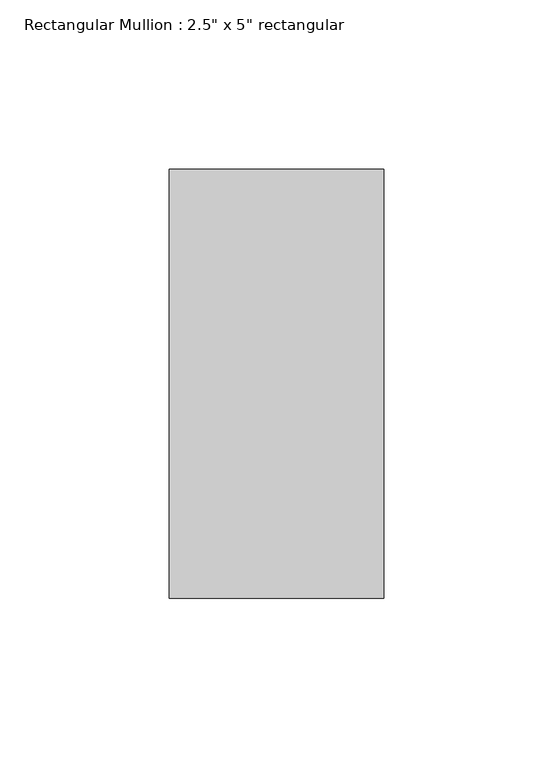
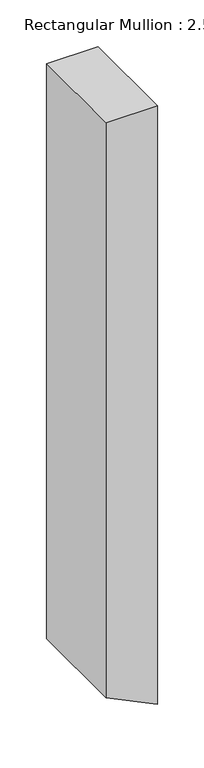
"""IFC4 building model written with IfcOpenShell, lengths in millimetres: member geometry."""

from ifc_helpers import new_model, si_unit, frame, origin, place, context, project, spatial, circle_curve, source, transform, mapped, element, save
from ifc_brep_helpers import plane_surface, cylinder_surface, advanced_brep


def member_0202919b(model_context):
    return source(origin(), model_context, "Body", "AdvancedBrep", [
        advanced_brep(
        [(31.75, 63.5, 0.0), (-31.75, 63.5, 0.0), (-31.75, -63.5, 0.0), (31.75, -63.5, 0.0), (31.75, 63.5, -781.634866), (27.2141874, 63.5, -779.4869154), (-31.75, 63.5, -750.9083357), (-31.75, -63.5, -750.9083357), (27.2141874, -63.5, -779.4869154), (31.75, -63.5, -781.634866)],
        [
            (0, 1),
            (1, 2),
            (2, 3),
            (3, 0),
            (0, 4),
            (4, 5, circle_curve(frame((1698.1714284, 63.5, 2743.2), z_axis=(0.0, 1.0, 0.0), x_axis=(-0.14285714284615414, 0.0, -0.9897433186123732)), 3898.9)),
            (5, 6, circle_curve(frame((1698.1714284, 63.5, 2743.2), z_axis=(0.0, 1.0, 0.0), x_axis=(-0.42857142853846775, 0.0, -0.903507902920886)), 3898.9)),
            (6, 1),
            (6, 7),
            (7, 2),
            (7, 8, circle_curve(frame((1698.1714284, -63.5, 2743.2), z_axis=(0.0, -1.0, 0.0), x_axis=(-0.42857142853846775, 0.0, -0.903507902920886)), 3898.9)),
            (8, 9, circle_curve(frame((1698.1714284, -63.5, 2743.2), z_axis=(0.0, -1.0, 0.0), x_axis=(-0.14285714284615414, 0.0, -0.9897433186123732)), 3898.9)),
            (9, 3),
            (9, 4),
            (8, 5),
        ],
        [
            plane_surface(frame((0.0, -70.9951583, 0.0), z_axis=(0.0, 0.0, 1.0), x_axis=(-1.0, 0.0, 0.0))),
            plane_surface(frame((31.75, 63.5, 0.0), z_axis=(0.0, 1.0, 0.0), x_axis=(0.0, 0.0, -1.0))),
            plane_surface(frame((-31.75, 63.5, 0.0), z_axis=(-1.0, 0.0, 0.0), x_axis=(0.0, 0.0, -1.0))),
            plane_surface(frame((-31.75, -63.5, 0.0), z_axis=(0.0, -1.0, 0.0), x_axis=(0.0, 0.0, -1.0))),
            plane_surface(frame((31.75, -63.5, 0.0), z_axis=(1.0, 0.0, 0.0), x_axis=(0.0, 0.0, -1.0))),
            cylinder_surface(frame((1698.1714284, 0.0, 2743.2), z_axis=(0.0, 1.0000000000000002, 0.0), x_axis=(-0.14285714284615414, 0.0, -0.9897433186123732)), 3898.9),
            cylinder_surface(frame((1698.1714284, 0.0, 2743.2), z_axis=(0.0, 1.0000000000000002, 0.0), x_axis=(-0.42857142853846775, 0.0, -0.903507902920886)), 3898.9),
        ],
        [
            (0, [[1, 2, 3, 4]]),
            (1, [[-1, 5, 6, 7, 8]]),
            (2, [[-2, -8, 9, 10]]),
            (3, [[-3, -10, 11, 12, 13]]),
            (4, [[-4, -13, 14, -5]]),
            (5, [[-14, -12, 15, -6]]),
            (6, [[-11, -9, -7, -15]]),
        ],
    ),
    ])


if __name__ == "__main__":
    model = new_model("IFC4")
    model_context = context("Model", 3, world=origin())
    ifc_project = project(units=[si_unit("LENGTHUNIT", "METRE", prefix="MILLI")], contexts=[model_context])
    site = spatial("IfcSite", under=ifc_project)
    building = spatial("IfcBuilding", under=site)
    placement = place(None, origin())
    member_shape = member_0202919b(model_context)
    element("IfcMember", 1, ObjectType="Rectangular Mullion : 2.5\" x 5\" rectangular", at=placement, inside=building, context=model_context, shape_type="MappedRepresentation", body=[
        mapped(member_shape, transform((0.0, 0.0, 0.0), x_axis=(1.0, 0.0, 0.0), y_axis=(0.0, 1.0, 0.0), z_axis=(0.0, 0.0, 1.0))),
    ])
    save(model, "model.ifc")
